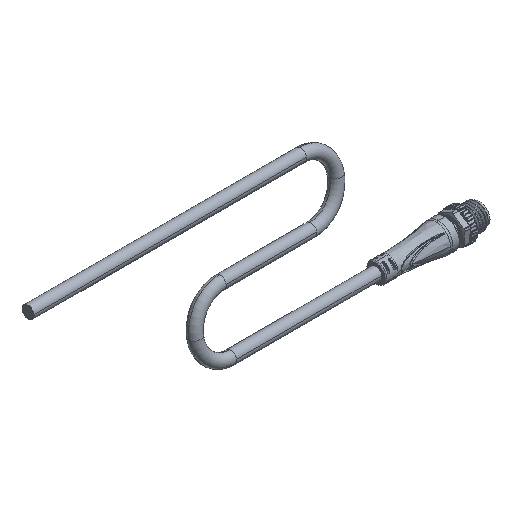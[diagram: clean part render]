
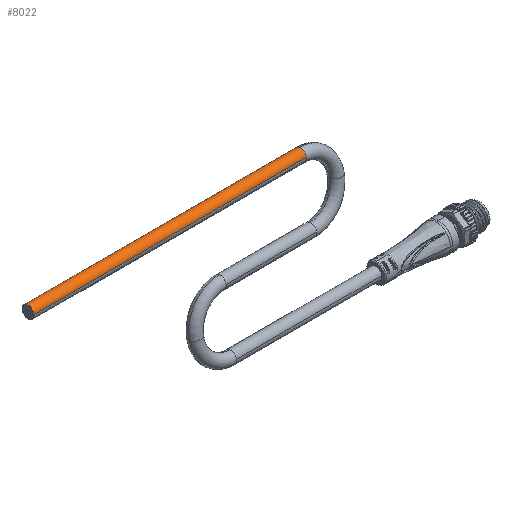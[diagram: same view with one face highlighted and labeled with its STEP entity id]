
A CAD part, isometric view. The second image highlights one B-rep face of the part: STEP entity #8022.
In plain terms, the highlighted cylindrical face has radius 2 mm (diameter 4 mm), a partial arc.
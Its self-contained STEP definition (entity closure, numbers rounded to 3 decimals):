
#738 = VECTOR ( 'NONE', #1819, 1000. ) ;
#750 = DIRECTION ( 'NONE',  ( -1., 0., 0. ) ) ;
#1467 = VERTEX_POINT ( 'NONE', #26937 ) ;
#1506 = VERTEX_POINT ( 'NONE', #9169 ) ;
#1819 = DIRECTION ( 'NONE',  ( 0., 0., -1. ) ) ;
#1910 = EDGE_CURVE ( 'NONE', #1467, #1506, #14572, .T. ) ;
#3634 = DIRECTION ( 'NONE',  ( 0., 0., -1. ) ) ;
#6260 = DIRECTION ( 'NONE',  ( -1., 0., 0. ) ) ;
#6345 = CARTESIAN_POINT ( 'NONE',  ( 0., 40., 0. ) ) ;
#6564 = CARTESIAN_POINT ( 'NONE',  ( 2., 40., 0. ) ) ;
#8022 = ADVANCED_FACE ( 'NONE', ( #11281 ), #24083, .T. ) ;
#8658 = EDGE_CURVE ( 'NONE', #22894, #20564, #8838, .T. ) ;
#8787 = DIRECTION ( 'NONE',  ( 0., 0., -1. ) ) ;
#8838 = CIRCLE ( 'NONE', #31192, 2. ) ;
#9169 = CARTESIAN_POINT ( 'NONE',  ( -2., 40., -90. ) ) ;
#10853 = DIRECTION ( 'NONE',  ( 0., 0., -1. ) ) ;
#11281 = FACE_OUTER_BOUND ( 'NONE', #25051, .T. ) ;
#12297 = DIRECTION ( 'NONE',  ( 0., 0., -1. ) ) ;
#13638 = ORIENTED_EDGE ( 'NONE', *, *, #1910, .F. ) ;
#14572 = LINE ( 'NONE', #32842, #738 ) ;
#19426 = ORIENTED_EDGE ( 'NONE', *, *, #19653, .T. ) ;
#19653 = EDGE_CURVE ( 'NONE', #1467, #22894, #22957, .T. ) ;
#19948 = CARTESIAN_POINT ( 'NONE',  ( 0., 42., 0. ) ) ;
#20134 = ORIENTED_EDGE ( 'NONE', *, *, #30810, .T. ) ;
#20177 = VECTOR ( 'NONE', #8787, 1000. ) ;
#20233 = AXIS2_PLACEMENT_3D ( 'NONE', #24331, #10853, #6260 ) ;
#20564 = VERTEX_POINT ( 'NONE', #25663 ) ;
#21317 = AXIS2_PLACEMENT_3D ( 'NONE', #27834, #12297, #25436 ) ;
#21696 = EDGE_CURVE ( 'NONE', #1506, #22834, #24580, .T. ) ;
#22834 = VERTEX_POINT ( 'NONE', #27629 ) ;
#22894 = VERTEX_POINT ( 'NONE', #19948 ) ;
#22957 = CIRCLE ( 'NONE', #20233, 2. ) ;
#24083 = CYLINDRICAL_SURFACE ( 'NONE', #29954, 2. ) ;
#24331 = CARTESIAN_POINT ( 'NONE',  ( 0., 40., 0. ) ) ;
#24580 = CIRCLE ( 'NONE', #21317, 2. ) ;
#24994 = DIRECTION ( 'NONE',  ( 0., 0., -1. ) ) ;
#25051 = EDGE_LOOP ( 'NONE', ( #19426, #33360, #20134, #33407, #13638 ) ) ;
#25436 = DIRECTION ( 'NONE',  ( -1., 0., 0. ) ) ;
#25663 = CARTESIAN_POINT ( 'NONE',  ( 2., 40., 0. ) ) ;
#26937 = CARTESIAN_POINT ( 'NONE',  ( -2., 40., 0. ) ) ;
#27629 = CARTESIAN_POINT ( 'NONE',  ( 2., 40., -90. ) ) ;
#27834 = CARTESIAN_POINT ( 'NONE',  ( 0., 40., -90. ) ) ;
#29954 = AXIS2_PLACEMENT_3D ( 'NONE', #6345, #3634, #750 ) ;
#30097 = LINE ( 'NONE', #6564, #20177 ) ;
#30810 = EDGE_CURVE ( 'NONE', #20564, #22834, #30097, .T. ) ;
#31192 = AXIS2_PLACEMENT_3D ( 'NONE', #32375, #24994, #32848 ) ;
#32375 = CARTESIAN_POINT ( 'NONE',  ( 0., 40., 0. ) ) ;
#32842 = CARTESIAN_POINT ( 'NONE',  ( -2., 40., 0. ) ) ;
#32848 = DIRECTION ( 'NONE',  ( -1., 0., 0. ) ) ;
#33360 = ORIENTED_EDGE ( 'NONE', *, *, #8658, .T. ) ;
#33407 = ORIENTED_EDGE ( 'NONE', *, *, #21696, .F. ) ;
